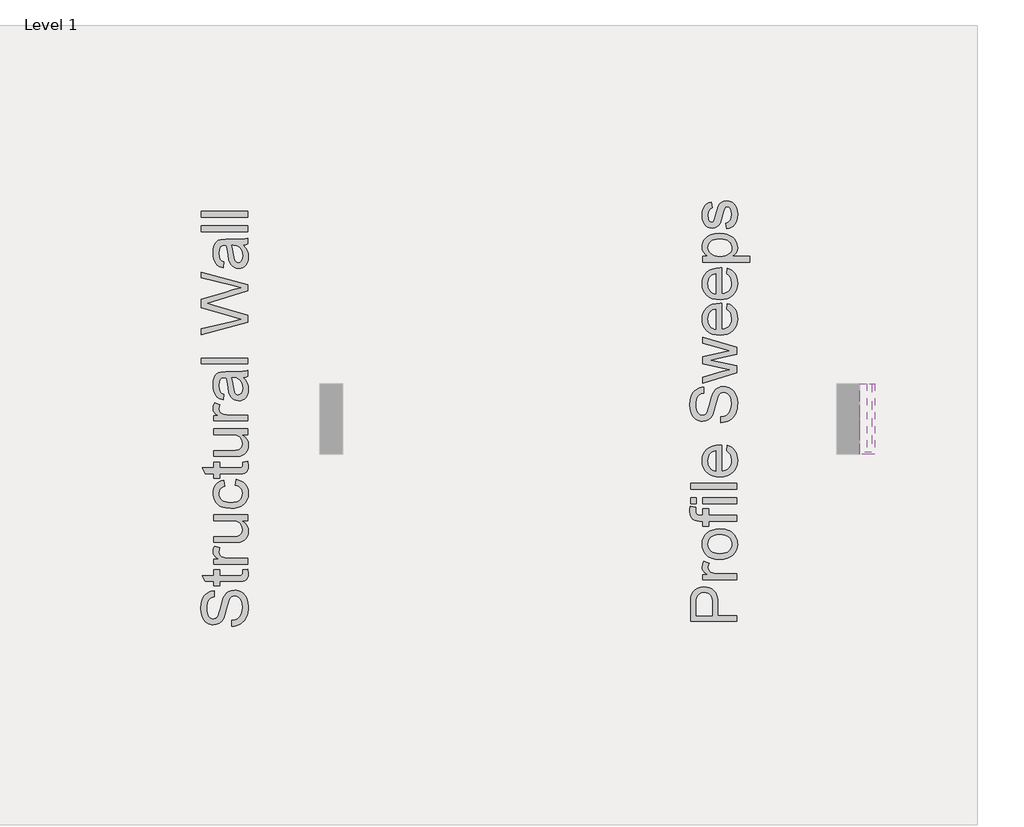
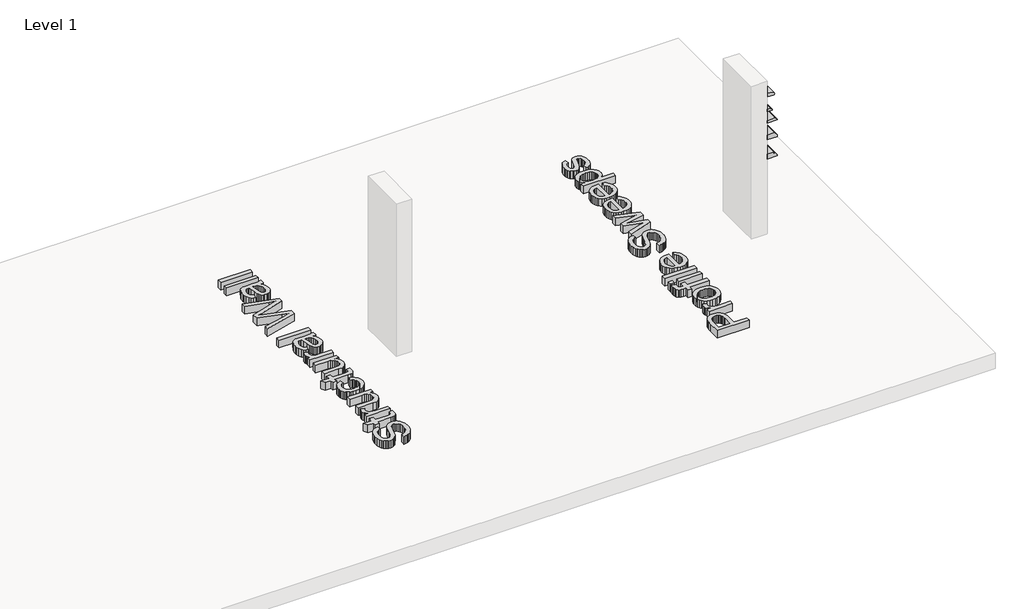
# One storey, part 2 of 2: 7 proxies.
"""IFC4 building model written with IfcOpenShell, lengths in millimetres."""

from ifc_helpers import new_model, si_unit, point, frame, frame_2d, origin, origin_with_axes, place, context, project, spatial, polyline, circle_curve, trimmed, segment, composite_curve, outline, extrude, element, save

model = new_model("IFC4")

# Units and contexts
model_context = context("Model", 3, world=origin())
ifc_project = project(units=[si_unit("LENGTHUNIT", "METRE", prefix="MILLI")], contexts=[model_context])

# Site, building, storey
site = spatial("IfcSite", under=ifc_project)
building = spatial("IfcBuilding", under=site)
storey = spatial("IfcBuildingStorey", under=building, Name="Level 1", Elevation=0.0)

# Proxies
placement = place(None, origin())
element("IfcBuildingElementProxy", 1, Name="Wall_Sweep_Sloped-Sill-Unit_SL2_Glen-Gery", ObjectType="Wall_Sweep_Sloped-Sill-Unit_SL2_Glen-Gery", at=placement, inside=storey, context=model_context, shape_type="SweptSolid", body=[
    extrude(outline(composite_curve([segment(polyline([(2711.45, -9649.5975469), (2711.45, -9521.0100469)]), True, "CONTINUOUS"), segment(trimmed(circle_curve(frame_2d((2738.4374742, -9521.0473459)), 26.9875), [point((2711.45, -9521.0100469))], [point((2764.6582211, -9514.6600469))], False, "CARTESIAN"), True, "CONTINUOUS"), segment(polyline([(2764.6582211, -9514.6600469), (2794.0, -9649.5975469), (2711.45, -9649.5975469)]), True, "CONTINUOUS")], self_intersect=False)), frame((0.0, 11683.1761537, 0.0), z_axis=(0.0, 1.0, 0.0), x_axis=(0.0, 0.0, 1.0)), (0.0, 0.0, 1.0), 889.0),
])
element("IfcBuildingElementProxy", 2, Name="Wall_Sweep_Water-Table-Unit_W2-S_Glen-Gery", ObjectType="Wall_Sweep_Water-Table-Unit_W2-S_Glen-Gery", at=placement, inside=storey, context=model_context, shape_type="SweptSolid", body=[
    extrude(outline(composite_curve([segment(polyline([(2495.55, -9649.5975469), (2438.4, -9649.5975469), (2438.4, -9557.5225469), (2457.45, -9557.5225469)]), True, "CONTINUOUS"), segment(trimmed(circle_curve(frame_2d((2495.55, -9557.5225469)), 38.1), [point((2457.45, -9557.5225469))], [point((2495.55, -9595.6225469))], True, "CARTESIAN"), True, "CONTINUOUS"), segment(polyline([(2495.55, -9595.6225469), (2495.55, -9649.5975469)]), True, "CONTINUOUS")], self_intersect=False)), frame((0.0, 11657.7761537, 0.0), z_axis=(0.0, 1.0, 0.0), x_axis=(0.0, 0.0, 1.0)), (0.0, 0.0, 1.0), 914.4),
])
element("IfcBuildingElementProxy", 3, Name="Wall_Sweep_Water-Table-Unit_W3-H_Glen-Gery", ObjectType="Wall_Sweep_Water-Table-Unit_W3-H_Glen-Gery", at=placement, inside=storey, context=model_context, shape_type="SweptSolid", body=[
    extrude(outline(polyline([(2266.95, -9649.5975469), (2209.8, -9649.5975469), (2209.8, -9455.9225469), (2228.85, -9455.9225469), (2266.95, -9494.0225469), (2266.95, -9649.5975469)])), frame((0.0, 11657.7761537, 0.0), z_axis=(0.0, 1.0, 0.0), x_axis=(0.0, 0.0, 1.0)), (0.0, 0.0, 1.0), 914.4),
])
element("IfcBuildingElementProxy", 4, Name="Wall_Sweep_Water-Table-Unit_W9-R_Glen-Gery", ObjectType="Wall_Sweep_Water-Table-Unit_W9-R_Glen-Gery", at=placement, inside=storey, context=model_context, shape_type="SweptSolid", body=[
    extrude(outline(polyline([(1971.675, -9649.5975469), (1879.6, -9649.5975469), (1879.6, -9455.9225469), (1911.35, -9455.9225469), (1971.675, -9516.2475469), (1971.675, -9649.5975469)])), frame((0.0, 11657.7761537, 0.0), z_axis=(0.0, 1.0, 0.0), x_axis=(0.0, 0.0, 1.0)), (0.0, 0.0, 1.0), 914.4),
])
element("IfcBuildingElementProxy", 5, Name="Wall_Sweep_Water-Table-Unit_W12-R_Glen-Gery", ObjectType="Wall_Sweep_Water-Table-Unit_W12-R_Glen-Gery", at=placement, inside=storey, context=model_context, shape_type="SweptSolid", body=[
    extrude(outline(composite_curve([segment(polyline([(1590.675, -9649.5975469), (1498.6, -9649.5975469), (1498.6, -9455.9225469), (1517.65, -9455.9225469), (1517.65, -9468.6225469)]), True, "CONTINUOUS"), segment(trimmed(circle_curve(frame_2d((1514.4750682, -9525.6842881)), 57.15), [point((1517.65, -9468.6225469))], [point((1571.625, -9525.7725469))], False, "CARTESIAN"), True, "CONTINUOUS"), segment(polyline([(1571.625, -9525.7725469), (1590.675, -9525.7725469), (1590.675, -9649.5975469)]), True, "CONTINUOUS")], self_intersect=False)), frame((0.0, 11657.7761537, 0.0), z_axis=(0.0, 1.0, 0.0), x_axis=(0.0, 0.0, 1.0)), (0.0, 0.0, 1.0), 914.4),
])
element("IfcBuildingElementProxy", 6, Name="24\" Arial", ObjectType="24\" Arial", at=placement, inside=storey, context=model_context, shape_type="SweptSolid", body=[
    extrude(outline(polyline([(-17794.9030258, 9429.1459988), (-17794.9030258, 9504.1736911), (-17753.2677854, 9512.7828258), (-17719.8020642, 9528.3525373), (-17693.2419681, 9552.6412873), (-17672.3236027, 9587.4075373), (-17658.7504777, 9629.9036911), (-17654.2261027, 9677.3821527), (-17657.6514392, 9719.1822488), (-17667.9274489, 9755.7802296), (-17684.1932181, 9785.4359508), (-17705.5878335, 9806.4092681), (-17730.1513431, 9818.8833546), (-17755.923795, 9823.0413835), (-17781.0368239, 9819.9274411), (-17802.7428335, 9810.5856142), (-17821.2616315, 9791.6088835), (-17836.8130258, 9759.5902296), (-17865.461295, 9650.3458065), (-17884.4197085, 9578.6335469), (-17902.4622565, 9532.7486911), (-17927.7035065, 9495.3997008), (-17958.2934104, 9468.9311911), (-17993.572545, 9453.1599892), (-18032.8814873, 9447.9029219), (-18055.2240234, 9449.528583), (-18076.8247085, 9454.4055661), (-18097.6835426, 9462.5338714), (-18117.8005258, 9473.9134988), (-18136.3559585, 9488.4162272), (-18152.5301412, 9505.9138354), (-18166.3230739, 9526.4063234), (-18177.7347565, 9549.8936911), (-18193.0663431, 9602.6841719), (-18198.1768719, 9661.1163835), (-18192.8282181, 9724.4209988), (-18176.7822565, 9779.8125373), (-18164.8302133, 9804.0463354), (-18150.3686989, 9825.3127296), (-18133.3977133, 9843.61172), (-18113.9172565, 9858.9433065), (-18092.4951652, 9871.1884267), (-18069.6992758, 9880.2280181), (-18045.5295883, 9886.0620806), (-18019.9861027, 9888.6906142), (-18019.9861027, 9813.6629219), (-18043.9268239, 9808.6439796), (-18064.7536027, 9799.8883065), (-18082.4664392, 9787.3959027), (-18097.0653335, 9771.1667681), (-18108.4770162, 9750.8986671), (-18116.6282181, 9726.2893642), (-18121.5189392, 9697.3388594), (-18123.1491796, 9664.0471527), (-18121.5372565, 9629.6930421), (-18116.7014873, 9600.3395565), (-18108.6418719, 9575.986696), (-18097.3584104, 9556.6344604), (-18083.794444, 9541.8890277), (-18068.8933142, 9531.3565758), (-18052.655021, 9525.0371046), (-18035.0795642, 9522.9306142), (-18019.9586267, 9524.4234748), (-18006.2481219, 9528.9020565), (-17993.9480498, 9536.3663594), (-17983.0584104, 9546.8163835), (-17972.7457662, 9563.2653258), (-17962.3232181, 9589.1659988), (-17941.1484104, 9669.3225373), (-17921.0360065, 9752.0434988), (-17903.4880258, 9802.0863835), (-17876.2685065, 9844.8572969), (-17860.2683383, 9861.3932464), (-17842.6745642, 9874.6961911), (-17823.578771, 9884.9218282), (-17803.072545, 9892.2258546), (-17757.828795, 9898.0690758), (-17734.3597445, 9896.3884628), (-17711.5775931, 9891.3466238), (-17689.4823407, 9882.9435589), (-17668.0739873, 9871.1792681), (-17648.1813912, 9856.259821), (-17630.6334104, 9838.3912873), (-17615.430045, 9817.5736671), (-17602.571295, 9793.8069604), (-17592.345658, 9767.7826455), (-17585.0416315, 9740.1922008), (-17579.1984104, 9680.3129219), (-17580.7736989, 9641.933583), (-17585.4995642, 9606.8055661), (-17593.3760065, 9574.9288714), (-17604.4030258, 9546.3034988), (-17618.5989392, 9520.7554339), (-17635.9820642, 9498.1106623), (-17656.5524008, 9478.3691839), (-17680.3099489, 9461.5309988), (-17706.4853815, 9447.9670325), (-17734.3093719, 9438.0482104), (-17763.78192, 9431.7745325), (-17794.9030258, 9429.1459988)])), origin_with_axes(), (0.0, 0.0, 1.0), 152.4),
    extrude(outline(polyline([(-17651.148795, 10160.6659988), (-17586.378795, 10170.0444604), (-17579.1984104, 10113.9202296), (-17582.3123527, 10077.9084027), (-17591.6541796, 10051.0552296), (-17606.0515835, 10032.0784988), (-17624.3322565, 10019.6959988), (-17655.7281219, 10012.8819604), (-17709.4711027, 10010.6106142), (-17954.3368719, 10010.6106142), (-17954.3368719, 9954.339845), (-18029.3645642, 9954.339845), (-18029.3645642, 10010.6106142), (-18136.4841796, 10010.6106142), (-18180.5922565, 10085.6383065), (-18029.3645642, 10085.6383065), (-18029.3645642, 10160.6659988), (-17954.3368719, 10160.6659988), (-17954.3368719, 10085.6383065), (-17711.6691796, 10085.6383065), (-17672.9830258, 10089.594845), (-17659.2816796, 10102.4169604), (-17655.4899969, 10113.2424892), (-17654.2261027, 10127.9879219), (-17651.148795, 10160.6659988)])), origin_with_axes(), (0.0, 0.0, 1.0), 152.4),
    extrude(outline(polyline([(-17588.5768719, 10235.6936911), (-18029.3645642, 10235.6936911), (-18029.3645642, 10301.3429219), (-17964.1549489, 10301.3429219), (-18001.9618719, 10325.5950373), (-18024.2357181, 10347.9421527), (-18035.1161989, 10370.3625373), (-18038.7430258, 10394.8344604), (-18032.9547565, 10432.2017681), (-18015.5899489, 10470.1552296), (-17948.328795, 10445.0971527), (-17959.8686989, 10418.7202296), (-17963.7153335, 10392.3433065), (-17960.0152373, 10369.9412392), (-17948.9149489, 10349.9204219), (-17931.2570642, 10333.7462392), (-17907.8841796, 10322.8840758), (-17865.9741796, 10313.7620565), (-17820.2541796, 10310.7213835), (-17588.5768719, 10310.7213835), (-17588.5768719, 10235.6936911)])), origin_with_axes(), (0.0, 0.0, 1.0), 152.4),
    extrude(outline(polyline([(-17588.5768719, 10798.4013835), (-17664.3372565, 10798.4013835), (-17627.0890114, 10771.2551335), (-17600.4831219, 10739.6394604), (-17584.5195883, 10703.5543642), (-17579.1984104, 10662.999845), (-17582.9351412, 10626.4568161), (-17594.1453335, 10592.4415758), (-17610.9972565, 10563.9032104), (-17631.6591796, 10543.7908065), (-17656.7538912, 10530.2543161), (-17686.9041796, 10521.4436911), (-17756.6564873, 10517.0475373), (-18029.3645642, 10517.0475373), (-18029.3645642, 10592.0752296), (-17791.9722565, 10592.0752296), (-17744.493795, 10593.2109027), (-17715.4791796, 10596.6179219), (-17689.96317, 10607.5533546), (-17670.5651412, 10626.2919604), (-17658.3108623, 10651.5881623), (-17654.2261027, 10682.1963835), (-17658.4024489, 10714.5630661), (-17670.9314873, 10744.8415758), (-17690.6592277, 10769.8080661), (-17716.4316796, 10786.2386911), (-17751.7291315, 10795.3607104), (-17800.0318719, 10798.4013835), (-18029.3645642, 10798.4013835), (-18029.3645642, 10873.4290758), (-17588.5768719, 10873.4290758), (-17588.5768719, 10798.4013835)])), origin_with_axes(), (0.0, 0.0, 1.0), 152.4),
    extrude(outline(polyline([(-17748.0107181, 11257.9459988), (-17738.6322565, 11332.9736911), (-17703.2294801, 11324.8133306), (-17671.9023046, 11312.0553258), (-17644.6507301, 11294.6996767), (-17621.4747565, 11272.7463835), (-17602.9788551, 11247.12047), (-17589.7674969, 11218.7469604), (-17581.840682, 11187.6258546), (-17579.1984104, 11153.7571527), (-17582.8847686, 11111.6777176), (-17593.9438431, 11073.9486431), (-17612.3756339, 11040.5699291), (-17638.1801412, 11011.5415758), (-17670.8719561, 10988.0450493), (-17709.96567, 10971.2618161), (-17755.461283, 10961.1918762), (-17807.358795, 10957.8352296), (-17874.1253815, 10963.5685469), (-17904.1703455, 10970.7351935), (-17931.9897565, 10980.7684988), (-17957.0249368, 10993.7371527), (-17978.7172085, 11009.709845), (-17997.0665714, 11028.6865758), (-18012.0730258, 11050.667345), (-18023.7411508, 11074.6584387), (-18032.0755258, 11099.6661431), (-18037.0761508, 11125.690458), (-18038.7430258, 11152.7313835), (-18036.4533623, 11186.0185109), (-18029.5843719, 11216.1275854), (-18018.1360546, 11243.058607), (-18002.1084104, 11266.8115758), (-17981.8677854, 11286.9835109), (-17957.7805258, 11303.1714315), (-17929.8466315, 11315.3753378), (-17898.0661027, 11323.5952296), (-17888.6876412, 11248.5675373), (-17921.42067, 11234.9577777), (-17944.8851412, 11213.7646527), (-17959.0077854, 11186.16047), (-17963.7153335, 11153.3175373), (-17961.398194, 11127.8244243), (-17954.4467758, 11104.8316238), (-17942.8610787, 11084.3391359), (-17926.6411027, 11066.3469604), (-17905.4113431, 11051.6976935), (-17878.796295, 11041.2339315), (-17846.7959585, 11034.9556743), (-17809.4103335, 11032.8629219), (-17771.4614513, 11034.909881), (-17739.0901892, 11041.0507585), (-17712.2965474, 11051.2855541), (-17691.0805258, 11065.6142681), (-17674.9567157, 11083.249256), (-17663.4397085, 11103.4028738), (-17656.5295041, 11126.0751214), (-17654.2261027, 11151.2659988), (-17659.9777373, 11190.1170085), (-17667.1672806, 11206.9185589), (-17677.2326412, 11221.9708065), (-17690.2837229, 11234.8524532), (-17706.4304296, 11245.1422008), (-17725.6727614, 11252.8400493), (-17748.0107181, 11257.9459988)])), origin_with_axes(), (0.0, 0.0, 1.0), 152.4),
    extrude(outline(polyline([(-17651.148795, 11558.0567681), (-17586.378795, 11567.4352296), (-17579.1984104, 11511.3109988), (-17582.3123527, 11475.2991719), (-17591.6541796, 11448.4459988), (-17606.0515835, 11429.4692681), (-17624.3322565, 11417.0867681), (-17655.7281219, 11410.2727296), (-17709.4711027, 11408.0013835), (-17954.3368719, 11408.0013835), (-17954.3368719, 11351.7306142), (-18029.3645642, 11351.7306142), (-18029.3645642, 11408.0013835), (-18136.4841796, 11408.0013835), (-18180.5922565, 11483.0290758), (-18029.3645642, 11483.0290758), (-18029.3645642, 11558.0567681), (-17954.3368719, 11558.0567681), (-17954.3368719, 11483.0290758), (-17711.6691796, 11483.0290758), (-17672.9830258, 11486.9856142), (-17659.2816796, 11499.8077296), (-17655.4899969, 11510.6332585), (-17654.2261027, 11525.3786911), (-17651.148795, 11558.0567681)])), origin_with_axes(), (0.0, 0.0, 1.0), 152.4),
    extrude(outline(polyline([(-17588.5768719, 11914.4383065), (-17664.3372565, 11914.4383065), (-17627.0890114, 11887.2920565), (-17600.4831219, 11855.6763835), (-17584.5195883, 11819.5912873), (-17579.1984104, 11779.0367681), (-17582.9351412, 11742.4937392), (-17594.1453335, 11708.4784988), (-17610.9972565, 11679.9401335), (-17631.6591796, 11659.8277296), (-17656.7538912, 11646.2912392), (-17686.9041796, 11637.4806142), (-17756.6564873, 11633.0844604), (-18029.3645642, 11633.0844604), (-18029.3645642, 11708.1121527), (-17791.9722565, 11708.1121527), (-17744.493795, 11709.2478258), (-17715.4791796, 11712.654845), (-17689.96317, 11723.5902777), (-17670.5651412, 11742.3288835), (-17658.3108623, 11767.6250854), (-17654.2261027, 11798.2333065), (-17658.4024489, 11830.5999892), (-17670.9314873, 11860.8784988), (-17690.6592277, 11885.8449892), (-17716.4316796, 11902.2756142), (-17751.7291315, 11911.3976335), (-17800.0318719, 11914.4383065), (-18029.3645642, 11914.4383065), (-18029.3645642, 11989.4659988), (-17588.5768719, 11989.4659988), (-17588.5768719, 11914.4383065)])), origin_with_axes(), (0.0, 0.0, 1.0), 152.4),
    extrude(outline(polyline([(-17588.5768719, 12092.6290758), (-18029.3645642, 12092.6290758), (-18029.3645642, 12158.2783065), (-17964.1549489, 12158.2783065), (-18001.9618719, 12182.5304219), (-18024.2357181, 12204.8775373), (-18035.1161989, 12227.2979219), (-18038.7430258, 12251.769845), (-18032.9547565, 12289.1371527), (-18015.5899489, 12327.0906142), (-17948.328795, 12302.0325373), (-17959.8686989, 12275.6556142), (-17963.7153335, 12249.2786911), (-17960.0152373, 12226.8766238), (-17948.9149489, 12206.8558065), (-17931.2570642, 12190.6816238), (-17907.8841796, 12179.8194604), (-17865.9741796, 12170.6974411), (-17820.2541796, 12167.6567681), (-17588.5768719, 12167.6567681), (-17588.5768719, 12092.6290758)])), origin_with_axes(), (0.0, 0.0, 1.0), 152.4),
    extrude(outline(polyline([(-17644.8476412, 12655.3367681), (-17614.1111989, 12619.4897969), (-17593.998795, 12582.5804219), (-17582.8985065, 12543.7660469), (-17579.1984104, 12502.2040758), (-17581.4239633, 12468.7978859), (-17588.1006219, 12439.5039315), (-17599.2283864, 12414.3222128), (-17614.8072565, 12393.2527296), (-17633.8480979, 12376.6160349), (-17655.3617758, 12364.7326815), (-17679.3482902, 12357.6026695), (-17705.8076412, 12355.2259988), (-17736.9104296, 12358.8161911), (-17765.1557181, 12369.5867681), (-17789.3345642, 12386.2005661), (-17808.2380258, 12407.3204219), (-17822.5255258, 12432.1403738), (-17832.8564873, 12459.8544604), (-17844.1399489, 12524.7709988), (-17856.0095642, 12601.4838835), (-17869.9307181, 12654.8971527), (-17886.6361027, 12655.3367681), (-17920.1201412, 12650.1712873), (-17932.5209585, 12643.7144363), (-17942.0276412, 12634.674845), (-17951.5160065, 12619.0501815), (-17958.2934104, 12600.0184988), (-17963.7153335, 12551.7340758), (-17960.1068239, 12507.039845), (-17949.281295, 12475.8271527), (-17929.2604777, 12454.5424411), (-17898.0661027, 12439.6321527), (-17907.4445642, 12364.6044604), (-17948.4753335, 12377.6280661), (-17980.713795, 12397.0627296), (-18005.3688912, 12424.7218642), (-18023.6495642, 12462.4188835), (-18034.9696604, 12508.5235469), (-18038.7430258, 12561.4056142), (-18035.4092758, 12612.1262392), (-18025.4080258, 12652.3327296), (-18010.3695162, 12682.6478738), (-17991.9239873, 12703.6944604), (-17969.1189392, 12717.6522488), (-17941.0018719, 12726.7009988), (-17875.3526412, 12730.3644604), (-17782.0076412, 12730.3644604), (-17651.6616796, 12734.1744604), (-17619.4415354, 12739.8161911), (-17588.5768719, 12749.1213835), (-17588.5768719, 12674.0936911), (-17614.6607181, 12662.0775373), (-17644.8476412, 12655.3367681)]), holes=[polyline([(-17794.9030258, 12655.3367681), (-17782.4106219, 12604.9275373), (-17771.8964873, 12534.2959988), (-17759.733795, 12469.7458065), (-17751.4177373, 12452.9488354), (-17739.9511027, 12440.5113835), (-17726.2131219, 12432.8181142), (-17711.0830258, 12430.2536911), (-17688.772545, 12435.84047), (-17670.4918719, 12452.6008065), (-17658.292545, 12480.1683546), (-17654.2261027, 12518.1767681), (-17658.7138431, 12558.474845), (-17672.1770642, 12594.0836911), (-17692.0147085, 12622.9517681), (-17715.6257181, 12643.0275373), (-17739.9511027, 12651.9297488), (-17773.6549489, 12654.8971527), (-17794.9030258, 12655.3367681)])]), origin_with_axes(), (0.0, 0.0, 1.0), 152.4),
    extrude(outline(polyline([(-17588.5768719, 12833.5275373), (-18188.7984104, 12833.5275373), (-18188.7984104, 12908.5552296), (-17588.5768719, 12908.5552296), (-17588.5768719, 12833.5275373)])), origin_with_axes(), (0.0, 0.0, 1.0), 152.4),
    extrude(outline(polyline([(-17588.5768719, 13372.3494604), (-18188.7984104, 13208.6659988), (-18188.7984104, 13286.0383065), (-17794.3168719, 13380.9952296), (-17672.5434104, 13410.3029219), (-17780.2491796, 13441.6621527), (-18188.7984104, 13560.6513835), (-18188.7984104, 13672.1671527), (-17892.6441796, 13758.624845), (-17782.7403335, 13795.6624411), (-17672.5434104, 13822.9552296), (-17790.7999489, 13851.3836911), (-18188.7984104, 13947.219845), (-18188.7984104, 14024.5921527), (-17588.5768719, 13860.7621527), (-17588.5768719, 13780.6056142), (-18051.6384104, 13636.704845), (-18116.2618719, 13616.6290758), (-18038.4499489, 13594.0621527), (-17588.5768719, 13462.9102296), (-17588.5768719, 13372.3494604)])), origin_with_axes(), (0.0, 0.0, 1.0), 152.4),
    extrude(outline(polyline([(-17644.8476412, 14371.5952296), (-17614.1111989, 14335.7482585), (-17593.998795, 14298.8388835), (-17582.8985065, 14260.0245085), (-17579.1984104, 14218.4625373), (-17581.4239633, 14185.0563474), (-17588.1006219, 14155.7623931), (-17599.2283864, 14130.5806743), (-17614.8072565, 14109.5111911), (-17633.8480979, 14092.8744964), (-17655.3617758, 14080.9911431), (-17679.3482902, 14073.861131), (-17705.8076412, 14071.4844604), (-17736.9104296, 14075.0746527), (-17765.1557181, 14085.8452296), (-17789.3345642, 14102.4590277), (-17808.2380258, 14123.5788835), (-17822.5255258, 14148.3988354), (-17832.8564873, 14176.1129219), (-17844.1399489, 14241.0294604), (-17856.0095642, 14317.742345), (-17869.9307181, 14371.1556142), (-17886.6361027, 14371.5952296), (-17920.1201412, 14366.4297488), (-17932.5209585, 14359.9728979), (-17942.0276412, 14350.9333065), (-17951.5160065, 14335.3086431), (-17958.2934104, 14316.2769604), (-17963.7153335, 14267.9925373), (-17960.1068239, 14223.2983065), (-17949.281295, 14192.0856142), (-17929.2604777, 14170.8009027), (-17898.0661027, 14155.8906142), (-17907.4445642, 14080.8629219), (-17948.4753335, 14093.8865277), (-17980.713795, 14113.3211911), (-18005.3688912, 14140.9803258), (-18023.6495642, 14178.677345), (-18034.9696604, 14224.7820085), (-18038.7430258, 14277.6640758), (-18035.4092758, 14328.3847008), (-18025.4080258, 14368.5911911), (-18010.3695162, 14398.9063354), (-17991.9239873, 14419.9529219), (-17969.1189392, 14433.9107104), (-17941.0018719, 14442.9594604), (-17875.3526412, 14446.6229219), (-17782.0076412, 14446.6229219), (-17651.6616796, 14450.4329219), (-17619.4415354, 14456.0746527), (-17588.5768719, 14465.379845), (-17588.5768719, 14390.3521527), (-17614.6607181, 14378.3359988), (-17644.8476412, 14371.5952296)]), holes=[polyline([(-17794.9030258, 14371.5952296), (-17782.4106219, 14321.1859988), (-17771.8964873, 14250.5544604), (-17759.733795, 14186.0042681), (-17751.4177373, 14169.2072969), (-17739.9511027, 14156.769845), (-17726.2131219, 14149.0765758), (-17711.0830258, 14146.5121527), (-17688.772545, 14152.0989315), (-17670.4918719, 14168.8592681), (-17658.292545, 14196.4268161), (-17654.2261027, 14234.4352296), (-17658.7138431, 14274.7333065), (-17672.1770642, 14310.3421527), (-17692.0147085, 14339.2102296), (-17715.6257181, 14359.2859988), (-17739.9511027, 14368.1882104), (-17773.6549489, 14371.1556142), (-17794.9030258, 14371.5952296)])]), origin_with_axes(), (0.0, 0.0, 1.0), 152.4),
    extrude(outline(polyline([(-17588.5768719, 14549.7859988), (-18188.7984104, 14549.7859988), (-18188.7984104, 14624.8136911), (-17588.5768719, 14624.8136911), (-17588.5768719, 14549.7859988)])), origin_with_axes(), (0.0, 0.0, 1.0), 152.4),
    extrude(outline(polyline([(-17588.5768719, 14737.3552296), (-18188.7984104, 14737.3552296), (-18188.7984104, 14812.3829219), (-17588.5768719, 14812.3829219), (-17588.5768719, 14737.3552296)])), origin_with_axes(), (0.0, 0.0, 1.0), 152.4),
])
element("IfcBuildingElementProxy", 7, Name="24\" Arial", ObjectType="24\" Arial", at=placement, inside=storey, context=model_context, shape_type="SweptSolid", body=[
    extrude(outline(polyline([(-11244.2296487, 9490.9730717), (-11844.4511871, 9490.9730717), (-11844.4511871, 9713.4184564), (-11843.0224371, 9765.2198025), (-11838.7361871, 9803.0999948), (-11828.0571968, 9843.0866775), (-11810.6740718, 9876.0028794), (-11785.7991679, 9902.5080237), (-11752.644841, 9923.2615333), (-11713.5373891, 9936.6698025), (-11670.8031102, 9941.1392256), (-11633.9578458, 9938.1214491), (-11600.0616679, 9929.0681198), (-11569.1145766, 9913.9792376), (-11541.1165718, 9892.8548025), (-11517.9085429, 9863.8539251), (-11501.3313794, 9825.135716), (-11491.3850814, 9776.7001751), (-11488.0696487, 9718.5473025), (-11488.0696487, 9566.000764), (-11244.2296487, 9566.000764), (-11244.2296487, 9490.9730717)]), holes=[polyline([(-11563.097341, 9566.000764), (-11563.097341, 9722.9434564), (-11564.8191679, 9759.0285525), (-11569.9846487, 9789.4719179), (-11578.5937833, 9814.2735525), (-11590.6465718, 9833.4334564), (-11605.8224612, 9847.730115), (-11623.8008987, 9857.942014), (-11644.5818843, 9864.0691535), (-11668.1654179, 9866.1115333), (-11701.8692641, 9861.2940814), (-11730.2977256, 9846.8417256), (-11751.692341, 9824.5495621), (-11764.2946487, 9796.2126871), (-11768.1412833, 9767.271341), (-11769.4234948, 9721.1849948), (-11769.4234948, 9566.000764), (-11563.097341, 9566.000764)])]), origin_with_axes(), (0.0, 0.0, 1.0), 152.4),
    extrude(outline(polyline([(-11244.2296487, 10034.923841), (-11685.017341, 10034.923841), (-11685.017341, 10100.5730717), (-11619.8077256, 10100.5730717), (-11657.6146487, 10124.8251871), (-11679.8884948, 10147.1723025), (-11690.7689756, 10169.5926871), (-11694.3958025, 10194.0646102), (-11688.6075333, 10231.4319179), (-11671.2427256, 10269.3853794), (-11603.9815718, 10244.3273025), (-11615.5214756, 10217.9503794), (-11619.3681102, 10191.5734564), (-11615.6680141, 10169.171389), (-11604.5677256, 10149.1505717), (-11586.909841, 10132.976389), (-11563.5369564, 10122.1142256), (-11521.6269564, 10112.9922064), (-11475.9069564, 10109.9515333), (-11244.2296487, 10109.9515333), (-11244.2296487, 10034.923841)])), origin_with_axes(), (0.0, 0.0, 1.0), 152.4),
    extrude(outline(polyline([(-11464.6234948, 10297.520764), (-11521.7093843, 10301.5780477), (-11570.9005141, 10313.7498987), (-11612.1968843, 10334.0363169), (-11645.5984948, 10362.4373025), (-11666.9473169, 10391.0306198), (-11682.1964756, 10422.591341), (-11691.3459708, 10457.119466), (-11694.3958025, 10494.6149948), (-11690.6819684, 10536.0075309), (-11679.540466, 10573.4343698), (-11660.9712953, 10606.8955116), (-11634.9744564, 10636.3909564), (-11602.4291799, 10660.464478), (-11564.2146968, 10677.6598506), (-11520.3310069, 10687.9770741), (-11470.7781102, 10691.4161487), (-11430.6174131, 10689.8958121), (-11394.981091, 10685.3348025), (-11363.8691439, 10677.7331198), (-11337.2815718, 10667.090764), (-11314.3162472, 10653.5405357), (-11294.0710429, 10637.2152352), (-11276.5459588, 10618.1148626), (-11261.7409948, 10596.2394179), (-11249.976704, 10572.4406559), (-11241.5736391, 10547.5703314), (-11236.5318001, 10521.6284443), (-11234.8511871, 10494.6149948), (-11238.5512833, 10452.6179876), (-11249.6515718, 10414.8431198), (-11268.1520525, 10381.2903915), (-11294.0527256, 10351.9598025), (-11326.9139756, 10328.1427232), (-11366.2961871, 10311.1305237), (-11412.1993602, 10300.923204), (-11464.6234948, 10297.520764)]), holes=[polyline([(-11464.7700333, 10372.5484564), (-11428.3781222, 10374.7190573), (-11396.8677737, 10381.2308602), (-11370.2389876, 10392.083865), (-11348.4917641, 10407.2780717), (-11331.598627, 10425.7602352), (-11319.5321006, 10446.4771102), (-11312.2921847, 10469.4286967), (-11309.8788794, 10494.6149948), (-11312.3059227, 10519.6730717), (-11319.5870525, 10542.5330717), (-11331.7222689, 10563.1949948), (-11348.7115718, 10581.658841), (-11370.6740237, 10596.8530477), (-11397.7286871, 10607.7060525), (-11429.8755621, 10614.2178554), (-11467.1146487, 10616.3884564), (-11502.3525694, 10614.2041174), (-11533.0386391, 10607.6511006), (-11559.1728578, 10596.7294059), (-11580.7552256, 10581.4390333), (-11597.6483626, 10562.9064972), (-11609.7148891, 10542.2583121), (-11616.9548049, 10519.494478), (-11619.3681102, 10494.6149948), (-11616.9639636, 10469.4286967), (-11609.7515237, 10446.4771102), (-11597.7307905, 10425.7602352), (-11580.9017641, 10407.2780717), (-11559.2186511, 10392.083865), (-11532.6356583, 10381.2308602), (-11501.1527857, 10374.7190573), (-11464.7700333, 10372.5484564)])]), origin_with_axes(), (0.0, 0.0, 1.0), 152.4),
    extrude(outline(polyline([(-11244.2296487, 10794.5792256), (-11609.9896487, 10794.5792256), (-11609.9896487, 10728.9299948), (-11685.017341, 10728.9299948), (-11685.017341, 10794.5792256), (-11729.4184948, 10794.5792256), (-11766.1630141, 10796.5574948), (-11791.9904179, 10802.4923025), (-11816.938591, 10817.585764), (-11836.6846487, 10840.8853794), (-11849.5433987, 10873.4901871), (-11853.8296487, 10916.4992256), (-11851.7781102, 10949.0673987), (-11845.6234948, 10984.9326871), (-11775.2850333, 10973.9423025), (-11778.8019564, 10930.7134564), (-11775.6880141, 10902.1934083), (-11766.3461871, 10883.4548025), (-11748.5051294, 10873.068889), (-11719.8934948, 10869.6069179), (-11685.017341, 10869.6069179), (-11685.017341, 10954.0130717), (-11609.9896487, 10954.0130717), (-11609.9896487, 10869.6069179), (-11244.2296487, 10869.6069179), (-11244.2296487, 10794.5792256)])), origin_with_axes(), (0.0, 0.0, 1.0), 152.4),
    extrude(outline(polyline([(-11769.4234948, 11019.6623025), (-11844.4511871, 11019.6623025), (-11844.4511871, 11094.6899948), (-11769.4234948, 11094.6899948), (-11769.4234948, 11019.6623025)])), origin_with_axes(), (0.0, 0.0, 1.0), 152.4),
    extrude(outline(polyline([(-11244.2296487, 11019.6623025), (-11685.017341, 11019.6623025), (-11685.017341, 11094.6899948), (-11244.2296487, 11094.6899948), (-11244.2296487, 11019.6623025)])), origin_with_axes(), (0.0, 0.0, 1.0), 152.4),
    extrude(outline(polyline([(-11244.2296487, 11207.2315333), (-11844.4511871, 11207.2315333), (-11844.4511871, 11282.2592256), (-11244.2296487, 11282.2592256), (-11244.2296487, 11207.2315333)])), origin_with_axes(), (0.0, 0.0, 1.0), 152.4),
    extrude(outline(polyline([(-11375.5281102, 11703.410764), (-11366.1496487, 11776.9730717), (-11336.6862593, 11765.6941895), (-11310.7214756, 11750.4679275), (-11288.2552977, 11731.2942857), (-11269.2877256, 11708.173264), (-11254.22174, 11681.3429876), (-11243.4603218, 11651.0415814), (-11237.0034708, 11617.2690453), (-11234.8511871, 11580.0253794), (-11238.5650213, 11533.4719419), (-11249.7065237, 11491.9923987), (-11268.2756944, 11455.5867496), (-11294.2725333, 11424.2549948), (-11326.9735069, 11399.0595381), (-11365.6550814, 11381.0627833), (-11410.3172569, 11370.2647304), (-11460.9600333, 11366.6653794), (-11513.3200573, 11370.301365), (-11559.4705141, 11381.2093217), (-11599.4114035, 11399.3892496), (-11633.1427256, 11424.8411487), (-11659.9409468, 11456.0904756), (-11679.0825333, 11491.6626871), (-11690.5674852, 11531.5577833), (-11694.3958025, 11575.775764), (-11690.5766439, 11618.5695741), (-11679.1191679, 11657.269466), (-11660.0233746, 11691.8754395), (-11633.2892641, 11722.3874948), (-11599.6312112, 11747.294454), (-11559.763591, 11765.085139), (-11513.6864035, 11775.7595501), (-11461.3996487, 11779.3176871), (-11441.177341, 11778.8780717), (-11441.177341, 11441.6930717), (-11411.2377016, 11446.038853), (-11385.0164756, 11454.6800429), (-11362.5136631, 11467.6166415), (-11343.7292641, 11484.8486487), (-11328.9197208, 11505.4235645), (-11318.3414756, 11528.388889), (-11311.9945285, 11553.7446222), (-11309.8788794, 11581.490764), (-11313.7987833, 11621.4224948), (-11325.5584948, 11655.0530717), (-11345.8907064, 11682.3824948), (-11375.5281102, 11703.410764)]), holes=[polyline([(-11516.2050333, 11441.6930717), (-11516.2050333, 11704.2899948), (-11555.8436871, 11694.1422064), (-11571.431716, 11685.4140092), (-11584.1988794, 11674.2496102), (-11599.5854179, 11653.7891775), (-11610.5758025, 11630.5078794), (-11617.1700333, 11604.405716), (-11619.3681102, 11575.4826871), (-11617.614228, 11549.1011847), (-11612.3525814, 11524.9086006), (-11603.5831703, 11502.9049347), (-11591.3059948, 11483.0901871), (-11576.0888915, 11466.4626511), (-11558.4996968, 11454.0206198), (-11538.5384107, 11445.7640934), (-11516.2050333, 11441.6930717)])]), origin_with_axes(), (0.0, 0.0, 1.0), 152.4),
    extrude(outline(polyline([(-11450.5558025, 12070.0499948), (-11450.5558025, 12145.0776871), (-11408.9205621, 12153.6868217), (-11375.454841, 12169.2565333), (-11348.8947448, 12193.5452833), (-11327.9763794, 12228.3115333), (-11314.4032544, 12270.8076871), (-11309.8788794, 12318.2861487), (-11313.304216, 12360.0862448), (-11323.5802256, 12396.6842256), (-11339.8459948, 12426.3399467), (-11361.2406102, 12447.313264), (-11385.8041198, 12459.7873506), (-11411.5765718, 12463.9453794), (-11436.6896006, 12460.8314371), (-11458.3956102, 12451.4896102), (-11476.9144083, 12432.5128794), (-11492.4658025, 12400.4942256), (-11521.1140718, 12291.2498025), (-11540.0724852, 12219.5375429), (-11558.1150333, 12173.6526871), (-11583.3562833, 12136.3036967), (-11613.9461871, 12109.8351871), (-11649.2253218, 12094.0639852), (-11688.5342641, 12088.8069179), (-11710.8768001, 12090.432579), (-11732.4774852, 12095.3095621), (-11753.3363194, 12103.4378674), (-11773.4533025, 12114.8174948), (-11792.0087352, 12129.3202232), (-11808.1829179, 12146.8178314), (-11821.9758506, 12167.3103193), (-11833.3875333, 12190.7976871), (-11848.7191198, 12243.5881679), (-11853.8296487, 12302.0203794), (-11848.4809948, 12365.3249948), (-11832.4350333, 12420.7165333), (-11820.48299, 12444.9503314), (-11806.0214756, 12466.2167256), (-11789.05049, 12484.515716), (-11769.5700333, 12499.8473025), (-11748.1479419, 12512.0924227), (-11725.3520525, 12521.132014), (-11701.182365, 12526.9660765), (-11675.6388794, 12529.5946102), (-11675.6388794, 12454.5669179), (-11699.5796006, 12449.5479756), (-11720.4063794, 12440.7923025), (-11738.119216, 12428.2998987), (-11752.7181102, 12412.070764), (-11764.1297929, 12391.8026631), (-11772.2809948, 12367.1933602), (-11777.171716, 12338.2428554), (-11778.8019564, 12304.9511487), (-11777.1900333, 12270.5970381), (-11772.3542641, 12241.2435525), (-11764.2946487, 12216.8906919), (-11753.0111871, 12197.5384564), (-11739.4472208, 12182.7930237), (-11724.546091, 12172.2605717), (-11708.3077977, 12165.9411006), (-11690.732341, 12163.8346102), (-11675.6114035, 12165.3274708), (-11661.9008987, 12169.8060525), (-11649.6008266, 12177.2703554), (-11638.7111871, 12187.7203794), (-11628.3985429, 12204.1693217), (-11617.9759948, 12230.0699948), (-11596.8011871, 12310.2265333), (-11576.6887833, 12392.9474948), (-11559.1408025, 12442.9903794), (-11531.9212833, 12485.7612929), (-11515.921115, 12502.2972424), (-11498.327341, 12515.6001871), (-11479.2315477, 12525.8258241), (-11458.7253218, 12533.1298506), (-11413.4815718, 12538.9730717), (-11390.0125213, 12537.2924588), (-11367.2303698, 12532.2506198), (-11345.1351174, 12523.8475549), (-11323.7267641, 12512.083264), (-11303.8341679, 12497.1638169), (-11286.2861871, 12479.2952833), (-11271.0828218, 12458.4776631), (-11258.2240718, 12434.7109564), (-11247.9984347, 12408.6866415), (-11240.6944083, 12381.0961967), (-11234.8511871, 12321.2169179), (-11236.4264756, 12282.837579), (-11241.152341, 12247.7095621), (-11249.0287833, 12215.8328674), (-11260.0558025, 12187.2074948), (-11274.251716, 12161.6594299), (-11291.634841, 12139.0146583), (-11312.2051775, 12119.2731799), (-11335.9627256, 12102.4349948), (-11362.1381583, 12088.8710285), (-11389.9621487, 12078.9522064), (-11419.4346968, 12072.6785285), (-11450.5558025, 12070.0499948)])), origin_with_axes(), (0.0, 0.0, 1.0), 152.4),
    extrude(outline(polyline([(-11244.2296487, 12715.258841), (-11685.017341, 12581.1761487), (-11685.017341, 12659.1346102), (-11427.842341, 12735.1880717), (-11335.9627256, 12757.9015333), (-11424.4719564, 12776.5119179), (-11685.017341, 12837.0323025), (-11685.017341, 12926.420764), (-11425.2046487, 12986.6480717), (-11345.0481102, 13003.2069179), (-11429.6008025, 13026.9461487), (-11685.017341, 13103.1461487), (-11685.017341, 13181.3976871), (-11244.2296487, 13046.2892256), (-11244.2296487, 12955.5819179), (-11502.7234948, 12897.9923025), (-11583.3196487, 12881.2869179), (-11244.2296487, 12806.9919179), (-11244.2296487, 12715.258841)])), origin_with_axes(), (0.0, 0.0, 1.0), 152.4),
    extrude(outline(polyline([(-11375.5281102, 13541.5892256), (-11366.1496487, 13615.1515333), (-11336.6862593, 13603.8726511), (-11310.7214756, 13588.646389), (-11288.2552977, 13569.4727472), (-11269.2877256, 13546.3517256), (-11254.22174, 13519.5214491), (-11243.4603218, 13489.2200429), (-11237.0034708, 13455.4475068), (-11234.8511871, 13418.203841), (-11238.5650213, 13371.6504035), (-11249.7065237, 13330.1708602), (-11268.2756944, 13293.7652112), (-11294.2725333, 13262.4334564), (-11326.9735069, 13237.2379996), (-11365.6550814, 13219.2412448), (-11410.3172569, 13208.4431919), (-11460.9600333, 13204.843841), (-11513.3200573, 13208.4798265), (-11559.4705141, 13219.3877833), (-11599.4114035, 13237.5677112), (-11633.1427256, 13263.0196102), (-11659.9409468, 13294.2689371), (-11679.0825333, 13329.8411487), (-11690.5674852, 13369.7362448), (-11694.3958025, 13413.9542256), (-11690.5766439, 13456.7480357), (-11679.1191679, 13495.4479275), (-11660.0233746, 13530.0539011), (-11633.2892641, 13560.5659564), (-11599.6312112, 13585.4729155), (-11559.763591, 13603.2636006), (-11513.6864035, 13613.9380116), (-11461.3996487, 13617.4961487), (-11441.177341, 13617.0565333), (-11441.177341, 13279.8715333), (-11411.2377016, 13284.2173145), (-11385.0164756, 13292.8585044), (-11362.5136631, 13305.795103), (-11343.7292641, 13323.0271102), (-11328.9197208, 13343.6020261), (-11318.3414756, 13366.5673506), (-11311.9945285, 13391.9230838), (-11309.8788794, 13419.6692256), (-11313.7987833, 13459.6009564), (-11325.5584948, 13493.2315333), (-11345.8907064, 13520.5609564), (-11375.5281102, 13541.5892256)]), holes=[polyline([(-11516.2050333, 13279.8715333), (-11516.2050333, 13542.4684564), (-11555.8436871, 13532.3206679), (-11571.431716, 13523.5924708), (-11584.1988794, 13512.4280717), (-11599.5854179, 13491.967639), (-11610.5758025, 13468.686341), (-11617.1700333, 13442.5841775), (-11619.3681102, 13413.6611487), (-11617.614228, 13387.2796463), (-11612.3525814, 13363.0870621), (-11603.5831703, 13341.0833963), (-11591.3059948, 13321.2686487), (-11576.0888915, 13304.6411126), (-11558.4996968, 13292.1990814), (-11538.5384107, 13283.9425549), (-11516.2050333, 13279.8715333)])]), origin_with_axes(), (0.0, 0.0, 1.0), 152.4),
    extrude(outline(polyline([(-11375.5281102, 14001.133841), (-11366.1496487, 14074.6961487), (-11336.6862593, 14063.4172665), (-11310.7214756, 14048.1910044), (-11288.2552977, 14029.0173626), (-11269.2877256, 14005.896341), (-11254.22174, 13979.0660645), (-11243.4603218, 13948.7646583), (-11237.0034708, 13914.9921222), (-11234.8511871, 13877.7484564), (-11238.5650213, 13831.1950189), (-11249.7065237, 13789.7154756), (-11268.2756944, 13753.3098265), (-11294.2725333, 13721.9780717), (-11326.9735069, 13696.782615), (-11365.6550814, 13678.7858602), (-11410.3172569, 13667.9878073), (-11460.9600333, 13664.3884564), (-11513.3200573, 13668.0244419), (-11559.4705141, 13678.9323987), (-11599.4114035, 13697.1123265), (-11633.1427256, 13722.5642256), (-11659.9409468, 13753.8135525), (-11679.0825333, 13789.385764), (-11690.5674852, 13829.2808602), (-11694.3958025, 13873.498841), (-11690.5766439, 13916.2926511), (-11679.1191679, 13954.9925429), (-11660.0233746, 13989.5985165), (-11633.2892641, 14020.1105717), (-11599.6312112, 14045.0175309), (-11559.763591, 14062.808216), (-11513.6864035, 14073.482627), (-11461.3996487, 14077.040764), (-11441.177341, 14076.6011487), (-11441.177341, 13739.4161487), (-11411.2377016, 13743.7619299), (-11385.0164756, 13752.4031198), (-11362.5136631, 13765.3397184), (-11343.7292641, 13782.5717256), (-11328.9197208, 13803.1466415), (-11318.3414756, 13826.111966), (-11311.9945285, 13851.4676991), (-11309.8788794, 13879.213841), (-11313.7987833, 13919.1455717), (-11325.5584948, 13952.7761487), (-11345.8907064, 13980.1055717), (-11375.5281102, 14001.133841)]), holes=[polyline([(-11516.2050333, 13739.4161487), (-11516.2050333, 14002.0130717), (-11555.8436871, 13991.8652833), (-11571.431716, 13983.1370862), (-11584.1988794, 13971.9726871), (-11599.5854179, 13951.5122544), (-11610.5758025, 13928.2309564), (-11617.1700333, 13902.1287929), (-11619.3681102, 13873.205764), (-11617.614228, 13846.8242616), (-11612.3525814, 13822.6316775), (-11603.5831703, 13800.6280116), (-11591.3059948, 13780.813264), (-11576.0888915, 13764.185728), (-11558.4996968, 13751.7436967), (-11538.5384107, 13743.4871703), (-11516.2050333, 13739.4161487)])]), origin_with_axes(), (0.0, 0.0, 1.0), 152.4),
    extrude(outline(polyline([(-11075.417341, 14152.0684564), (-11685.017341, 14152.0684564), (-11685.017341, 14227.0961487), (-11611.4550333, 14227.0961487), (-11647.7416198, 14251.5680717), (-11673.6606102, 14278.970764), (-11689.2120044, 14310.9161487), (-11694.3958025, 14349.0161487), (-11692.5823891, 14375.1824227), (-11687.1421487, 14399.755091), (-11678.0750814, 14422.7341535), (-11665.3811871, 14444.1196102), (-11649.3901775, 14463.4443698), (-11630.4317641, 14480.241341), (-11608.5059468, 14494.5105237), (-11583.6127256, 14506.2519179), (-11528.331091, 14521.9681679), (-11467.9938794, 14527.2069179), (-11403.8283506, 14521.2904275), (-11374.2871126, 14513.8948145), (-11346.4402256, 14503.5409564), (-11321.0158025, 14490.3708121), (-11298.7419564, 14474.526341), (-11279.6186871, 14456.0075429), (-11263.6459948, 14434.8144179), (-11251.0482665, 14411.9864732), (-11242.0498891, 14388.563216), (-11236.6508626, 14364.5446463), (-11234.8511871, 14339.930764), (-11239.6686391, 14305.4392737), (-11254.1209948, 14274.6478794), (-11275.9369083, 14248.2892737), (-11302.8450333, 14227.0961487), (-11075.417341, 14227.0961487), (-11075.417341, 14152.0684564)]), holes=[polyline([(-11461.1065718, 14227.0961487), (-11424.9482064, 14229.1247905), (-11393.8454179, 14235.210716), (-11367.7982064, 14245.3539251), (-11346.8065718, 14259.5544179), (-11330.6507064, 14276.6490453), (-11319.1108025, 14295.4746583), (-11312.1868602, 14316.0312568), (-11309.8788794, 14338.318841), (-11312.2692881, 14360.926978), (-11319.4405141, 14381.8590814), (-11331.3925573, 14401.1151511), (-11348.1254179, 14418.6951871), (-11369.8772208, 14433.344454), (-11396.886091, 14443.808216), (-11429.1520285, 14450.0864732), (-11466.6750333, 14452.1792256), (-11502.5220044, 14450.1368458), (-11533.569841, 14444.0097064), (-11559.8185429, 14433.7978073), (-11581.2681102, 14419.5011487), (-11597.9368602, 14402.3653073), (-11609.8431102, 14383.6358602), (-11616.9868602, 14363.3128073), (-11619.3681102, 14341.3961487), (-11616.8357424, 14319.5481799), (-11609.2386391, 14298.9915814), (-11596.5768001, 14279.726353), (-11578.8502256, 14261.7524948), (-11556.2970405, 14246.5903434), (-11529.1553698, 14235.7602352), (-11497.4252136, 14229.2621703), (-11461.1065718, 14227.0961487)])]), origin_with_axes(), (0.0, 0.0, 1.0), 152.4),
    extrude(outline(polyline([(-11375.5281102, 14583.4776871), (-11384.9065718, 14658.5053794), (-11367.7982064, 14663.0389131), (-11352.8146487, 14670.3383602), (-11339.9558987, 14680.4037208), (-11329.2219564, 14693.2349948), (-11320.7593602, 14708.8688169), (-11314.7146487, 14727.3418217), (-11309.8788794, 14772.8053794), (-11314.3116679, 14817.7194179), (-11319.8526535, 14835.1758121), (-11327.6100333, 14849.2984564), (-11346.879841, 14867.9821102), (-11357.6687352, 14872.6530237), (-11369.2269564, 14874.2099948), (-11379.3564275, 14872.643865), (-11388.3502256, 14867.9454756), (-11402.9308025, 14849.1519179), (-11412.4558025, 14821.0531679), (-11424.3254179, 14771.9261487), (-11444.1264275, 14703.4560525), (-11461.0333025, 14658.9449948), (-11479.4788314, 14630.3516775), (-11503.8958025, 14609.6348025), (-11532.7272448, 14597.0508121), (-11564.4161871, 14592.8561487), (-11593.4857544, 14596.2265333), (-11620.3206102, 14606.3376871), (-11643.8583506, 14622.2737448), (-11663.0365718, 14643.118841), (-11675.1076775, 14663.835716), (-11685.2371487, 14690.8171102), (-11692.1061391, 14722.0114852), (-11694.3958025, 14755.3673025), (-11690.7140237, 14804.2012448), (-11679.6686871, 14846.660764), (-11662.3405141, 14880.8042256), (-11639.8102256, 14904.6899948), (-11610.4109468, 14920.5161487), (-11572.4758025, 14930.480764), (-11563.097341, 14855.4530717), (-11586.7083506, 14845.9830237), (-11604.4944564, 14827.2444179), (-11615.6496968, 14799.0540814), (-11619.3681102, 14761.228841), (-11615.8145525, 14718.1465333), (-11605.1538794, 14689.4249948), (-11589.767341, 14673.2691294), (-11572.0361871, 14667.883841), (-11560.4962833, 14670.1185525), (-11550.2019564, 14676.8226871), (-11541.0066679, 14688.2893217), (-11533.6431102, 14704.8115333), (-11517.6704179, 14769.4349948), (-11482.3546487, 14879.5586487), (-11465.466091, 14908.6465333), (-11442.3496487, 14930.7005717), (-11412.9320525, 14944.6034083), (-11377.1400333, 14949.2376871), (-11340.1390718, 14943.7974467), (-11305.3361871, 14927.4767256), (-11275.4606583, 14900.8983121), (-11253.2417641, 14864.6849948), (-11239.4488314, 14820.943264), (-11234.8511871, 14771.7796102), (-11237.0675814, 14731.3991054), (-11243.7167641, 14696.1291294), (-11254.7987352, 14665.9696823), (-11270.3134948, 14640.920764), (-11290.1877737, 14620.4603314), (-11314.3483025, 14604.066341), (-11342.7950814, 14591.7387929), (-11375.5281102, 14583.4776871)])), origin_with_axes(), (0.0, 0.0, 1.0), 152.4),
])

save(model, "model.ifc")
